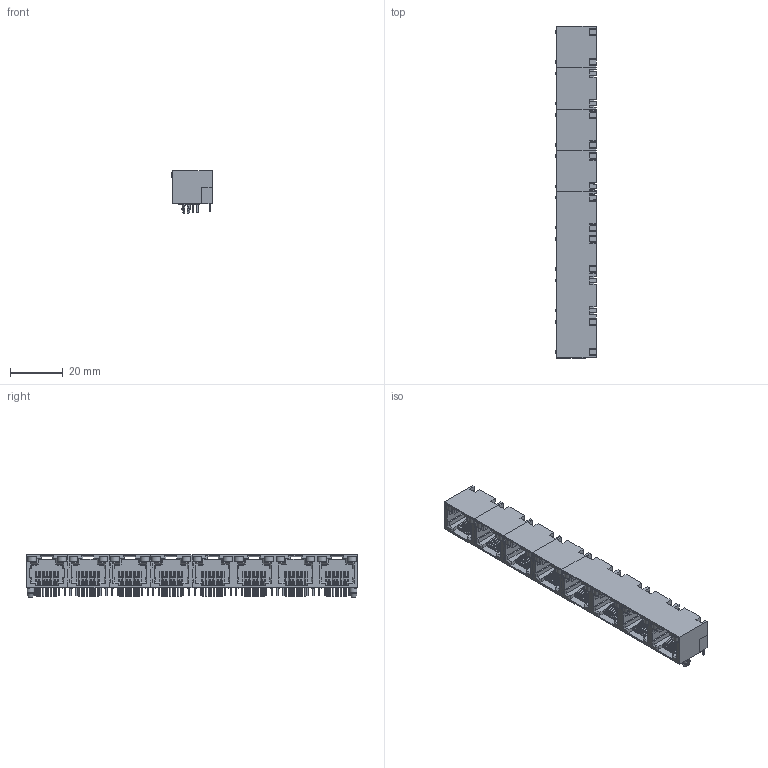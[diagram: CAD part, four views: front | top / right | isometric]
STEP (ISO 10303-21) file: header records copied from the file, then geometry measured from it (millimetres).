
FILE_DESCRIPTION((''),'2;1');
FILE_NAME('56_1X83D00_ASM','2024-08-22T15:41:54',('DGKYD'),(''),'CREO PARAMETRIC BY PTC INC, 2019010','CREO PARAMETRIC BY PTC INC, 2019010','');
FILE_SCHEMA(('CONFIG_CONTROL_DESIGN'));
Products named in the file (119): MSBR-122_1; MSBR-121_1; MSBR-120_1; MSBR-119_1; MSBR-118_1; MSBR-117_1; MSBR-116_1; MSBR-115_1; MSBR-114_1; MSBR-113_1; MSBR-112_1; MSBR-111_1; MSBR-110_1; MSBR-109_1; MSBR-108_1; MSBR-107_1; MSBR-106_1; MSBR-105_1; MSBR-104_1; MSBR-103_1; MSBR-102_1; MSBR-101_1; MSBR-100_1; MSBR-99_1; MSBR-98_1; MSBR-97_1; MSBR-96_1; MSBR-95_1; MSBR-94_1; MSBR-93_1; MSBR-92_1; MSBR-91_1; MSBR-90_1; MSBR-89_1; MSBR-88_1; MSBR-87_1; MSBR-86_1; MSBR-85_1; MSBR-84_1; MSBR-83_1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
Assembly tree (118 placements, depth 3):
  56_1X83D00_ASM
    56_1X83D00_ASM_1_ASM
      MSBR-122_1
      MSBR-121_1
      MSBR-120_1
      MSBR-119_1
      MSBR-118_1
      MSBR-117_1
      MSBR-116_1
      MSBR-115_1
      MSBR-114_1
      MSBR-113_1
      MSBR-112_1
      MSBR-111_1
      MSBR-110_1
      MSBR-109_1
      MSBR-108_1
      MSBR-107_1
      MSBR-106_1
      MSBR-105_1
      MSBR-104_1
      MSBR-103_1
      MSBR-102_1
      MSBR-101_1
      MSBR-100_1
      MSBR-99_1
      MSBR-98_1
      MSBR-97_1
      MSBR-96_1
      MSBR-95_1
      MSBR-94_1
      MSBR-93_1
      MSBR-92_1
      MSBR-91_1
      MSBR-90_1
      MSBR-89_1
      MSBR-88_1
      MSBR-87_1
      MSBR-86_1
      MSBR-85_1
      MSBR-84_1
      MSBR-83_1
      MSBR-82_1
      MSBR-81_1
      MSBR-80_1
      MSBR-79_1
      MSBR-78_1
      MSBR-77_1
      MSBR-76_1
      MSBR-75_1
      MSBR-74_1
      MSBR-73_1
      MSBR-72_1
      MSBR-71_1
      MSBR-70_1
      MSBR-69_1
      MSBR-68_1
      MSBR-67_1
      MSBR-66_1
      MSBR-65_1
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Bounding box: 15.39 x 126.2 x 16.29 mm (x, y, z)
Volume: 11027.2 mm3; surface area: 24991 mm2
Topology: 117 solids, 117 shells, 4164 faces, 11946 edges, 7888 vertices
Faces by surface type: plane 2837, torus 768, cylinder 555, cone 4
Entity records: 139668 total; most frequent: CARTESIAN_POINT 24420, DIRECTION 24320, ORIENTED_EDGE 23892, EDGE_CURVE 11946, VECTOR 8576, LINE 8576, VERTEX_POINT 7888, AXIS2_PLACEMENT_3D 7872
